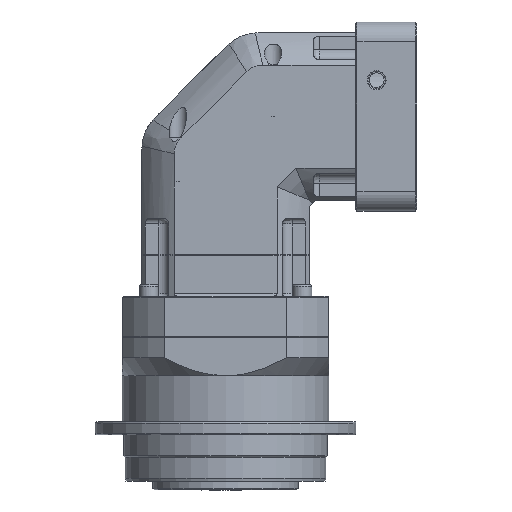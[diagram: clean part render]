
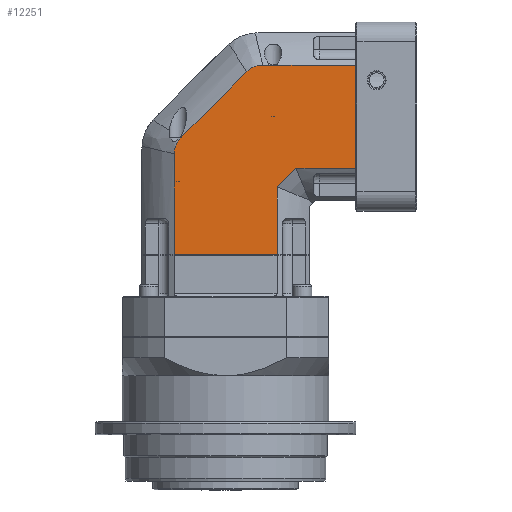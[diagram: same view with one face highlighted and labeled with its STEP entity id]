
A CAD part, left-side view. The second image highlights one B-rep face of the part: STEP entity #12251.
In plain terms, the highlighted planar face has unit normal (-1, 0, 0).
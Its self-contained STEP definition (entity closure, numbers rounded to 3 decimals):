
#757=CARTESIAN_POINT('',(-57.5,-89.3,187.005));
#758=VERTEX_POINT('',#757);
#768=CARTESIAN_POINT('',(-57.5,-89.3,116.295));
#769=VERTEX_POINT('',#768);
#770=CARTESIAN_POINT('',(-57.5,-89.3,116.295));
#771=DIRECTION('',(0.0,0.0,1.0));
#772=VECTOR('',#771,70.711);
#773=LINE('',#770,#772);
#774=EDGE_CURVE('',#769,#758,#773,.T.);
#9124=CARTESIAN_POINT('',(-57.5,-35.355,103.323));
#9125=VERTEX_POINT('',#9124);
#9133=CARTESIAN_POINT('',(-57.5,-48.327,116.295));
#9134=VERTEX_POINT('',#9133);
#9142=CARTESIAN_POINT('',(-57.5,-48.327,116.295));
#9143=DIRECTION('',(0.,0.707,-0.707));
#9144=VECTOR('',#9143,18.345);
#9145=LINE('',#9142,#9144);
#9146=EDGE_CURVE('',#9134,#9125,#9145,.T.);
#9196=CARTESIAN_POINT('',(-57.5,30.753,137.214));
#9197=VERTEX_POINT('',#9196);
#9205=CARTESIAN_POINT('',(-57.5,-14.436,182.403));
#9206=VERTEX_POINT('',#9205);
#9207=CARTESIAN_POINT('',(-57.5,-14.436,182.403));
#9208=DIRECTION('',(0.,0.707,-0.707));
#9209=VECTOR('',#9208,63.906);
#9210=LINE('',#9207,#9209);
#9211=EDGE_CURVE('',#9206,#9197,#9210,.T.);
#9404=CARTESIAN_POINT('',(-57.5,-35.355,56.85));
#9405=VERTEX_POINT('',#9404);
#9406=CARTESIAN_POINT('',(-57.5,-35.355,103.323));
#9407=DIRECTION('',(0.0,0.0,-1.0));
#9408=VECTOR('',#9407,46.473);
#9409=LINE('',#9406,#9408);
#9410=EDGE_CURVE('',#9125,#9405,#9409,.T.);
#11277=CARTESIAN_POINT('',(-57.5,-25.547,187.005));
#11278=VERTEX_POINT('',#11277);
#11279=CARTESIAN_POINT('',(-57.5,-14.436,182.403));
#11280=CARTESIAN_POINT('',(-57.5,-15.902,183.869));
#11281=CARTESIAN_POINT('',(-57.5,-17.61,185.034));
#11282=CARTESIAN_POINT('',(-57.5,-21.438,186.621));
#11283=CARTESIAN_POINT('',(-57.5,-23.471,187.005));
#11284=CARTESIAN_POINT('',(-57.5,-25.547,187.005));
#11285=B_SPLINE_CURVE_WITH_KNOTS('',3,(#11279,#11280,#11281,#11282,#11283,#11284),.UNSPECIFIED.,.F.,.U.,(4,2,4),(0.0,0.622,1.245),.UNSPECIFIED.);
#11286=EDGE_CURVE('',#9206,#11278,#11285,.T.);
#11955=CARTESIAN_POINT('',(-57.5,-48.327,116.295));
#11956=DIRECTION('',(0.0,-1.0,0.0));
#11957=VECTOR('',#11956,40.973);
#11958=LINE('',#11955,#11957);
#11959=EDGE_CURVE('',#9134,#769,#11958,.T.);
#12010=CARTESIAN_POINT('',(-57.5,-89.3,187.005));
#12011=DIRECTION('',(0.0,1.0,0.0));
#12012=VECTOR('',#12011,63.753);
#12013=LINE('',#12010,#12012);
#12014=EDGE_CURVE('',#758,#11278,#12013,.T.);
#12212=CARTESIAN_POINT('',(-57.5,35.355,209.15));
#12213=DIRECTION('',(-1.0,0.0,0.0));
#12214=DIRECTION('',(0.0,0.0,1.0));
#12215=AXIS2_PLACEMENT_3D('',#12212,#12213,#12214);
#12216=PLANE('',#12215);
#12217=CARTESIAN_POINT('',(-57.5,35.355,56.85));
#12218=VERTEX_POINT('',#12217);
#12219=CARTESIAN_POINT('',(-57.5,35.355,56.85));
#12220=DIRECTION('',(0.0,-1.0,0.0));
#12221=VECTOR('',#12220,70.711);
#12222=LINE('',#12219,#12221);
#12223=EDGE_CURVE('',#12218,#9405,#12222,.T.);
#12224=ORIENTED_EDGE('',*,*,#12223,.T.);
#12225=ORIENTED_EDGE('',*,*,#9410,.F.);
#12226=ORIENTED_EDGE('',*,*,#9146,.F.);
#12227=ORIENTED_EDGE('',*,*,#11959,.T.);
#12228=ORIENTED_EDGE('',*,*,#774,.T.);
#12229=ORIENTED_EDGE('',*,*,#12014,.T.);
#12230=ORIENTED_EDGE('',*,*,#11286,.F.);
#12231=ORIENTED_EDGE('',*,*,#9211,.T.);
#12232=CARTESIAN_POINT('',(-57.5,35.355,126.103));
#12233=VERTEX_POINT('',#12232);
#12234=CARTESIAN_POINT('',(-57.5,35.355,126.103));
#12235=CARTESIAN_POINT('',(-57.5,35.355,128.176));
#12236=CARTESIAN_POINT('',(-57.5,34.972,130.208));
#12237=CARTESIAN_POINT('',(-57.5,33.387,134.037));
#12238=CARTESIAN_POINT('',(-57.5,32.22,135.747));
#12239=CARTESIAN_POINT('',(-57.5,30.753,137.214));
#12240=B_SPLINE_CURVE_WITH_KNOTS('',3,(#12234,#12235,#12236,#12237,#12238,#12239),.UNSPECIFIED.,.F.,.U.,(4,2,4),(0.0,0.622,1.245),.UNSPECIFIED.);
#12241=EDGE_CURVE('',#12233,#9197,#12240,.T.);
#12242=ORIENTED_EDGE('',*,*,#12241,.F.);
#12243=CARTESIAN_POINT('',(-57.5,35.355,126.103));
#12244=DIRECTION('',(0.0,0.0,-1.0));
#12245=VECTOR('',#12244,69.253);
#12246=LINE('',#12243,#12245);
#12247=EDGE_CURVE('',#12233,#12218,#12246,.T.);
#12248=ORIENTED_EDGE('',*,*,#12247,.T.);
#12249=EDGE_LOOP('',(#12224,#12225,#12226,#12227,#12228,#12229,#12230,#12231,#12242,#12248));
#12250=FACE_OUTER_BOUND('',#12249,.T.);
#12251=ADVANCED_FACE('',(#12250),#12216,.T.);
